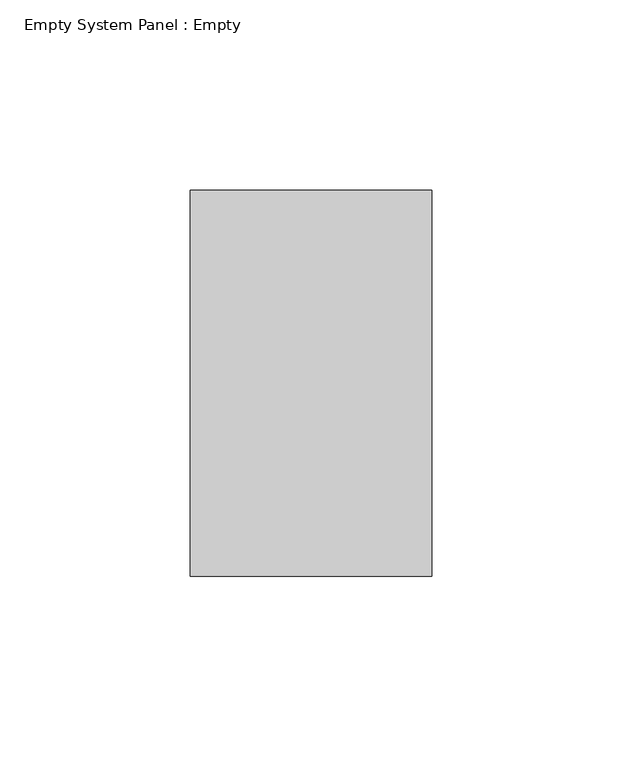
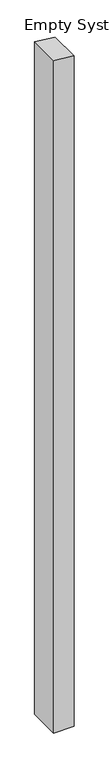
"""IFC4 building model written with IfcOpenShell, lengths in millimetres: plate geometry, Empty System Panel : Empty."""

from ifc_helpers import new_model, si_unit, frame, origin, place, context, project, spatial, polyline, outline, extrude, source, transform, mapped, element, save


def empty_system_panel_empty_d8fc4b88(model_context):
    return source(origin(), model_context, "Body", "SweptSolid", [
        extrude(outline(polyline([(0.0, -31.75), (0.0, 31.75), (2187.3726823, 31.75), (2194.4750414, -31.75), (0.0, -31.75)])), frame((0.0, -50.8, 0.0), z_axis=(0.0, 1.0, 0.0), x_axis=(0.0, 0.0, 1.0)), (0.0, 0.0, 1.0), 101.6),
    ])


if __name__ == "__main__":
    model = new_model("IFC4")
    model_context = context("Model", 3, world=origin())
    ifc_project = project(units=[si_unit("LENGTHUNIT", "METRE", prefix="MILLI")], contexts=[model_context])
    site = spatial("IfcSite", under=ifc_project)
    building = spatial("IfcBuilding", under=site)
    placement = place(None, origin())
    empty_system_panel_empty_shape = empty_system_panel_empty_d8fc4b88(model_context)
    element("IfcPlate", 1, ObjectType="Empty System Panel : Empty", at=placement, inside=building, context=model_context, shape_type="MappedRepresentation", body=[
        mapped(empty_system_panel_empty_shape, transform((0.0, 0.0, 0.0), x_axis=(1.0, 0.0, 0.0), y_axis=(0.0, 1.0, 0.0), z_axis=(0.0, 0.0, 1.0))),
    ])
    save(model, "model.ifc")
